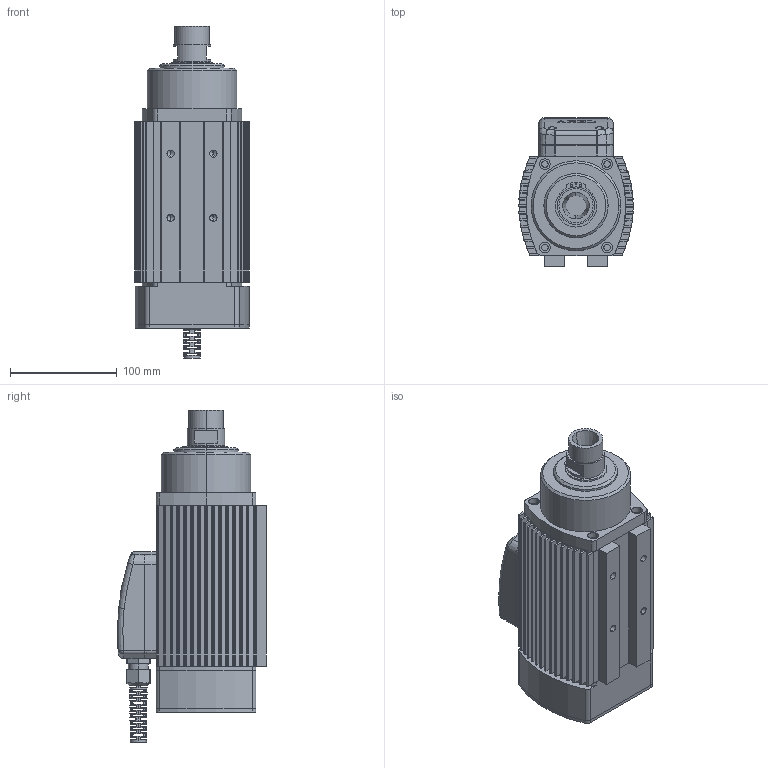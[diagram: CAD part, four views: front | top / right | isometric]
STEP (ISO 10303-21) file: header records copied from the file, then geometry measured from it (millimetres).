
FILE_DESCRIPTION (( 'STEP AP203' ), '1' );
FILE_NAME ('ARFM.3Y-S ER 25.STEP', '2024-05-23T09:12:28', ( '' ), ( '' ), 'SwSTEP 2.0', 'SolidWorks 2014', '' );
FILE_SCHEMA (( 'CONFIG_CONTROL_DESIGN' ));
Length unit declared in the file: millimetre
Products named in the file (16): Arfm.3Y Hava Kapak; rekor3; Arfm.3Y Yeni Rotor Mili ER25; klemens kutusu montaj tabansýz; Arfm.3Y-S Yeni Gövdesi; rekor1; Arfm.3Y 琄 Kapak; M4x10 inpus_91290A176; Klemens Kutusu  alt tabansýz; 471-35 Sekman_98541A146; Arfm.3Y Arka Kapaðý; rekor2; Arfm.3Y Ön Toz Kapaðý 62 lik; Yukseltme Parcasi; Klemens Kutusu Kapaðý Kademeli; ARFM.3Y-S ER 25
Assembly tree (21 placements, depth 3):
  ARFM.3Y-S ER 25
    Arfm.3Y-S Yeni Gövdesi
    Arfm.3Y Arka Kapaðý
    Arfm.3Y Hava Kapak
    Arfm.3Y 琄 Kapak
    Arfm.3Y Ön Toz Kapaðý 62 lik
    Arfm.3Y Yeni Rotor Mili ER25
    klemens kutusu montaj tabansýz
      Klemens Kutusu  alt tabansýz
      Klemens Kutusu Kapaðý Kademeli
      rekor1
      rekor2
      rekor3
      M4x10 inpus_91290A176  x4
      Yukseltme Parcasi  x4
    471-35 Sekman_98541A146
Bounding box: 107 x 139.24 x 310.3 mm (x, y, z)
Volume: 2120613.5 mm3; surface area: 309920.5 mm2
Topology: 20 solids, 21 shells, 1873 faces, 5140 edges, 3318 vertices
Faces by surface type: cylinder 794, plane 753, cone 228, bspline 96, sphere 2
Entity records: 60398 total; most frequent: CARTESIAN_POINT 19403, ORIENTED_EDGE 8670, DIRECTION 7633, EDGE_CURVE 4335, VERTEX_POINT 2811, AXIS2_PLACEMENT_3D 2744, VECTOR 2145, LINE 2145
